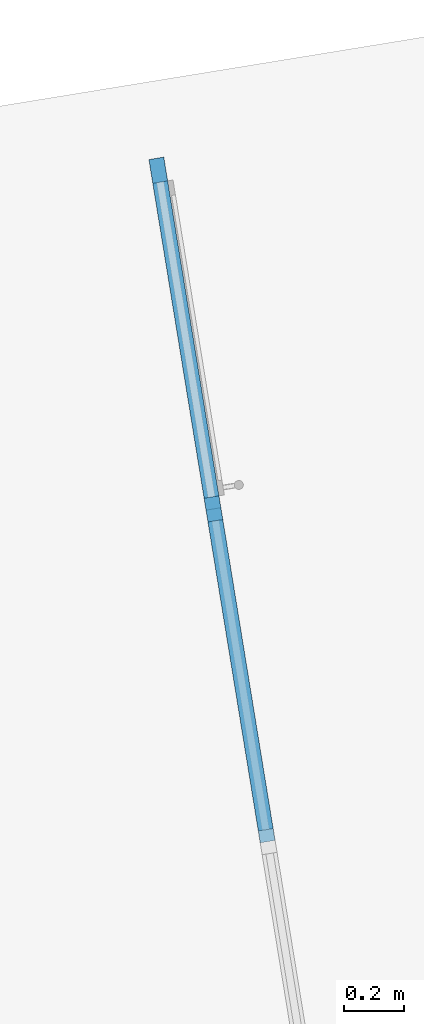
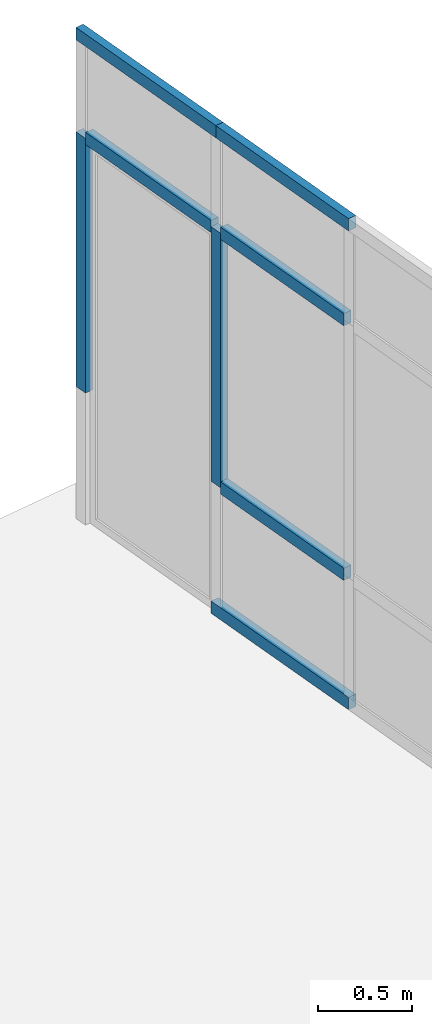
# One storey, part 3 of 18: 8 members, 1 element without a shape of its own.
"""IFC2X3 building model written with IfcOpenShell, lengths in millimetres."""

from ifc_helpers import new_model, entity, si_unit, converted_unit, derived_unit, direction, frame, origin, origin_with_axes, origin_2d_with_axis, place, context, subcontext, project, spatial, rectangle, extrude, source, transform, mapped, material, type_object, element, aggregate, save


model = new_model("IFC2X3")

# Units and contexts
model_context = context("Model", 3, precision=0.01, world=origin(), true_north=direction((6.12323399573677e-17, 1.0)))
plan_context = context("Plan", 3, precision=1e-05, world=origin_with_axes())
body_context = subcontext(model_context, "Body", "Model", "MODEL_VIEW")
ifc_project = project(units=[converted_unit("PLANEANGLEUNIT", "DEGREE", entity("IfcPositiveLengthMeasure", 0.0174532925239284), si_unit("PLANEANGLEUNIT", "RADIAN"), dimensions=[0, 0, 0, 0, 0, 0, 0]), si_unit("AREAUNIT", "SQUARE_METRE"), si_unit("LENGTHUNIT", "METRE", prefix="MILLI"), si_unit("MASSUNIT", "GRAM", prefix="KILO"), si_unit("POWERUNIT", "WATT"), si_unit("PRESSUREUNIT", "PASCAL", prefix="KILO"), si_unit("FORCEUNIT", "NEWTON", prefix="KILO"), si_unit("ELECTRICVOLTAGEUNIT", "VOLT"), si_unit("ELECTRICCURRENTUNIT", "AMPERE"), si_unit("THERMODYNAMICTEMPERATUREUNIT", "DEGREE_CELSIUS"), si_unit("TIMEUNIT", "SECOND"), si_unit("VOLUMEUNIT", "CUBIC_METRE"), derived_unit("LINEARVELOCITYUNIT", [(si_unit("LENGTHUNIT", "METRE"), 1), (si_unit("TIMEUNIT", "SECOND"), -1)]), derived_unit("VOLUMETRICFLOWRATEUNIT", [(si_unit("VOLUMEUNIT", "CUBIC_METRE"), 1), (si_unit("TIMEUNIT", "SECOND"), -1)]), derived_unit("THERMALTRANSMITTANCEUNIT", [(si_unit("POWERUNIT", "WATT"), 1), (si_unit("THERMODYNAMICTEMPERATUREUNIT", "KELVIN"), -1), (si_unit("AREAUNIT", "SQUARE_METRE"), -1)]), derived_unit("SOUNDPRESSUREUNIT", [(si_unit("PRESSUREUNIT", "PASCAL"), 1)])], contexts=[model_context, plan_context])

# Site, building, storey
site_placement = place(None, frame((-305029.896016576, -232111.759730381, 0.0), z_axis=(0.0, 0.0, 1.0), x_axis=(-0.160806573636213, 0.986985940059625, 0.0)))
site = spatial("IfcSite", under=ifc_project, at=site_placement, Name="Default", CompositionType="ELEMENT")
building_placement = place(site_placement, frame((0.0, 0.0, 0.0), z_axis=(0.0, 0.0, 1.0), x_axis=(1.0, -2.77555756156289e-17, 0.0)))
building = spatial("IfcBuilding", under=site, at=building_placement, Name="br001-a-200-1-0001", CompositionType="ELEMENT")
storey_placement = place(building_placement, frame((0.0, 0.0, 55500.0), z_axis=(0.0, 0.0, 1.0), x_axis=(1.0, -2.77555756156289e-17, 0.0)))
storey = spatial("IfcBuildingStorey", under=building, at=storey_placement, Name="H02-Nivå F-3,5 m", CompositionType="ELEMENT", Elevation=55500.0)

# Curtain wall, members
curtain_wall_type = type_object("IfcCurtainWallType", Name="Curtain Wall:A243 Innvendig glassvegg", PredefinedType="NOTDEFINED")
curtain_wall_placement = place(storey_placement, frame((0.0, 0.0, -55500.0), z_axis=(0.0, 0.0, 1.0), x_axis=(1.0, -2.77555756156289e-17, 0.0)))
curtain_wall = element("IfcCurtainWall", 1, at=curtain_wall_placement, inside=storey, type_object=curtain_wall_type, Name="Curtain Wall:A243 Innvendig glassvegg", ObjectType="Curtain Wall:A243 Innvendig glassvegg")
ifc_material = material(Name="Metal - Aluminium")
member_type_1 = type_object("IfcMemberType", Name="Rectangular Mullion:80 x 50  mm", PredefinedType="MULLION", material=ifc_material)
shared_shape_1 = source(origin(), body_context, "Body", "SweptSolid", [
    extrude(rectangle(XDim=80.0, YDim=50.0, at=origin_2d_with_axis()), frame((-40.0, 0.0, -1180.0), z_axis=(0.0, 0.0, 1.0), x_axis=(-1.0, 0.0, 0.0)), (0.0, 0.0, 1.0), 1179.99999999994),
])
member_1_placement = place(curtain_wall_placement, frame((1196423.59858442, -728835.878367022, 58700.0), z_axis=(1.0, -2.77555756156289e-17, 0.0), x_axis=(0.0, 0.0, 1.0)))
member_1 = element("IfcMember", 2, at=member_1_placement, type_object=member_type_1, material=ifc_material, Name="Rectangular Mullion:80 x 50  mm", ObjectType="Rectangular Mullion:80 x 50  mm", context=body_context, shape_type="MappedRepresentation", body=[
    mapped(shared_shape_1, transform((0.0, 0.0, 0.0), scale=1.0)),
])
member_type_2 = type_object("IfcMemberType", Name="Rectangular Mullion:80 x 50  mm", PredefinedType="MULLION", material=ifc_material)
shared_shape_2 = source(origin(), body_context, "Body", "SweptSolid", [
    extrude(rectangle(XDim=80.0, YDim=50.0, at=origin_2d_with_axis()), frame((0.0, 0.0, -1040.0), z_axis=(0.0, 0.0, 1.0), x_axis=(-1.0, 0.0, 0.0)), (0.0, 0.0, 1.0), 1040.00000000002),
])
member_2_placement = place(curtain_wall_placement, frame((1195203.59858442, -728835.878367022, 56360.0), z_axis=(1.0, -2.77555756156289e-17, 0.0), x_axis=(0.0, 0.0, 1.0)))
member_2 = element("IfcMember", 3, at=member_2_placement, type_object=member_type_2, material=ifc_material, Name="Rectangular Mullion:80 x 50  mm", ObjectType="Rectangular Mullion:80 x 50  mm", context=body_context, shape_type="MappedRepresentation", body=[
    mapped(shared_shape_2, transform((0.0, 0.0, 0.0), scale=1.0)),
])
member_3_placement = place(curtain_wall_placement, frame((1195203.59858442, -728835.878367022, 58020.0), z_axis=(1.0, -2.77555756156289e-17, 0.0), x_axis=(0.0, 0.0, 1.0)))
member_3 = element("IfcMember", 4, at=member_3_placement, type_object=member_type_2, material=ifc_material, Name="Rectangular Mullion:80 x 50  mm", ObjectType="Rectangular Mullion:80 x 50  mm", context=body_context, shape_type="MappedRepresentation", body=[
    mapped(shared_shape_2, transform((0.0, 0.0, 0.0), scale=1.0)),
])
member_type_3 = type_object("IfcMemberType", Name="Rectangular Mullion:80 x 50  mm", PredefinedType="MULLION", material=ifc_material)
shared_shape_3 = source(origin(), body_context, "Body", "SweptSolid", [
    extrude(rectangle(XDim=80.0, YDim=50.0, at=origin_2d_with_axis()), frame((0.0, 0.0, -1060.0), z_axis=(0.0, 0.0, 1.0), x_axis=(-1.0, 0.0, 0.0)), (0.0, 0.0, 1.0), 1059.99999999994),
])
member_4_placement = place(curtain_wall_placement, frame((1196343.59858442, -728835.878367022, 58020.0), z_axis=(1.0, -2.77555756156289e-17, 0.0), x_axis=(0.0, 0.0, 1.0)))
member_4 = element("IfcMember", 5, at=member_4_placement, type_object=member_type_3, material=ifc_material, Name="Rectangular Mullion:80 x 50  mm", ObjectType="Rectangular Mullion:80 x 50  mm", context=body_context, shape_type="MappedRepresentation", body=[
    mapped(shared_shape_3, transform((0.0, 0.0, 0.0), scale=1.0)),
])
member_type_4 = type_object("IfcMemberType", Name="Rectangular Mullion:80 x 50  mm", PredefinedType="MULLION", material=ifc_material)
shared_shape_4 = source(origin(), body_context, "Body", "SweptSolid", [
    extrude(rectangle(XDim=80.0, YDim=50.0, at=origin_2d_with_axis()), frame((-40.0, 0.0, -1160.0), z_axis=(0.0, 0.0, 1.0), x_axis=(-1.0, 0.0, 0.0)), (0.0, 0.0, 1.0), 1160.00000000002),
])
member_5_placement = place(curtain_wall_placement, frame((1194123.59858442, -728835.878367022, 55500.0), z_axis=(-1.0, 2.77555756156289e-17, 0.0), x_axis=(0.0, 0.0, -1.0)))
member_5 = element("IfcMember", 6, at=member_5_placement, type_object=member_type_4, material=ifc_material, Name="Rectangular Mullion:80 x 50  mm", ObjectType="Rectangular Mullion:80 x 50  mm", context=body_context, shape_type="MappedRepresentation", body=[
    mapped(shared_shape_4, transform((0.0, 0.0, 0.0), scale=1.0)),
])
member_type_5 = type_object("IfcMemberType", Name="Rectangular Mullion:80 x 50  mm", PredefinedType="MULLION", material=ifc_material)
shared_shape_5 = source(origin(), body_context, "Body", "SweptSolid", [
    extrude(rectangle(XDim=80.0, YDim=50.0, at=origin_2d_with_axis()), frame((-40.0, 0.0, -1120.0), z_axis=(0.0, 0.0, 1.0), x_axis=(-1.0, 0.0, 0.0)), (0.0, 0.0, 1.0), 1120.00000000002),
])
member_6_placement = place(curtain_wall_placement, frame((1195243.59858442, -728835.878367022, 58700.0), z_axis=(1.0, -2.77555756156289e-17, 0.0), x_axis=(0.0, 0.0, 1.0)))
member_6 = element("IfcMember", 7, at=member_6_placement, type_object=member_type_5, material=ifc_material, Name="Rectangular Mullion:80 x 50  mm", ObjectType="Rectangular Mullion:80 x 50  mm", context=body_context, shape_type="MappedRepresentation", body=[
    mapped(shared_shape_5, transform((0.0, 0.0, 0.0), scale=1.0)),
])
member_type_6 = type_object("IfcMemberType", Name="Rectangular Mullion:80 x 50  mm", PredefinedType="MULLION", material=ifc_material)
shared_shape_6 = source(origin(), body_context, "Body", "SweptSolid", [
    extrude(rectangle(XDim=80.0, YDim=50.0, at=origin_2d_with_axis()), frame((-40.0, 0.0, -1660.0), z_axis=(0.0, 0.0, 1.0), x_axis=(-1.0, 0.0, 0.0)), (0.0, 0.0, 1.0), 1660.0),
])
member_7_placement = place(curtain_wall_placement, frame((1196423.59858442, -728835.878367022, 56360.0), z_axis=(0.0, 0.0, -1.0), x_axis=(1.0, -2.77555756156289e-17, 0.0)))
member_7 = element("IfcMember", 8, at=member_7_placement, type_object=member_type_6, material=ifc_material, Name="Rectangular Mullion:80 x 50  mm", ObjectType="Rectangular Mullion:80 x 50  mm", context=body_context, shape_type="MappedRepresentation", body=[
    mapped(shared_shape_6, transform((0.0, 0.0, 0.0), scale=1.0)),
])
member_type_7 = type_object("IfcMemberType", Name="Rectangular Mullion:80 x 50  mm", PredefinedType="MULLION", material=ifc_material)
shared_shape_7 = source(origin(), body_context, "Body", "SweptSolid", [
    extrude(rectangle(XDim=80.0, YDim=50.0, at=origin_2d_with_axis()), frame((0.0, 0.0, -1660.0), z_axis=(0.0, 0.0, 1.0), x_axis=(-1.0, 0.0, 0.0)), (0.0, 0.0, 1.0), 1660.0),
])
member_8_placement = place(curtain_wall_placement, frame((1195243.59858442, -728835.878367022, 56360.0), z_axis=(0.0, 0.0, -1.0), x_axis=(1.0, -2.77555756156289e-17, 0.0)))
member_8 = element("IfcMember", 9, at=member_8_placement, type_object=member_type_7, material=ifc_material, Name="Rectangular Mullion:80 x 50  mm", ObjectType="Rectangular Mullion:80 x 50  mm", context=body_context, shape_type="MappedRepresentation", body=[
    mapped(shared_shape_7, transform((0.0, 0.0, 0.0), scale=1.0)),
])
aggregate(curtain_wall, [member_1, member_2, member_4, member_3, member_5, member_7, member_6, member_8])

save(model, "model.ifc")
